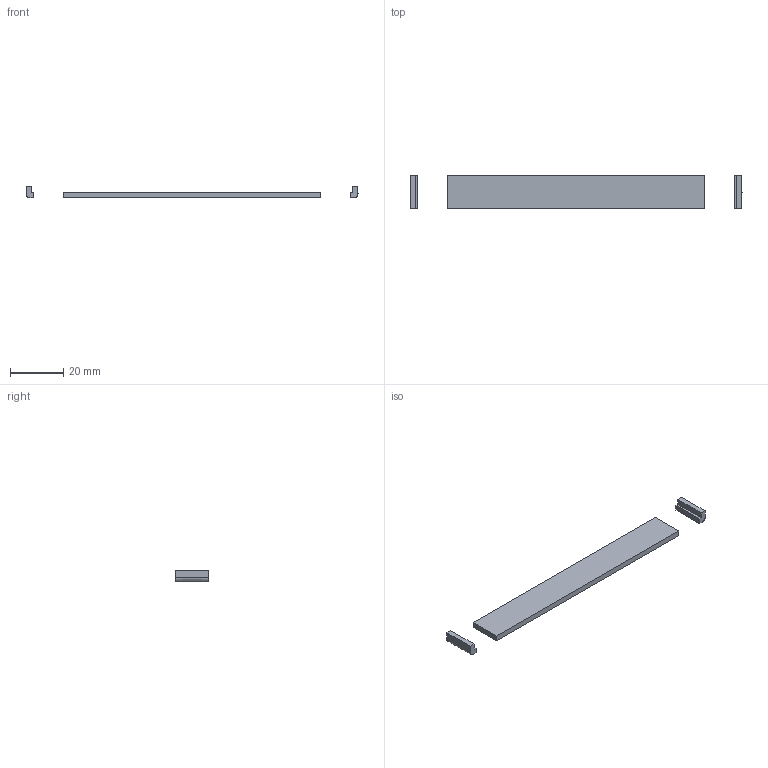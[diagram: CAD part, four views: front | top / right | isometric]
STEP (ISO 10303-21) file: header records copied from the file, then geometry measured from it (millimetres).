
FILE_DESCRIPTION(('Open CASCADE Model'),'2;1');
FILE_NAME('Open CASCADE Shape Model','2026-11-11T21:53:51',('Author'),( 'Open CASCADE'),'Open CASCADE STEP processor 8.0','build123d', 'Unknown');
FILE_SCHEMA(('AUTOMOTIVE_DESIGN { 1 0 10303 214 1 1 1 1 }'));
Length unit declared in the file: millimetre
Products named in the file (1): COMPOUND
Bounding box: 124.98 x 12.55 x 4.5 mm (x, y, z)
Volume: 2947 mm3; surface area: 3319.6 mm2
Topology: 3 solids, 3 shells, 25 faces, 57 edges, 38 vertices
Faces by surface type: plane 18, bspline 7
Entity records: 12611 total; most frequent: CARTESIAN_POINT 11697, B_SPLINE_CURVE_WITH_KNOTS 122, ORIENTED_EDGE 114, PCURVE 114, DEFINITIONAL_REPRESENTATION 114, DIRECTION 80, EDGE_CURVE 57, SURFACE_CURVE 57
